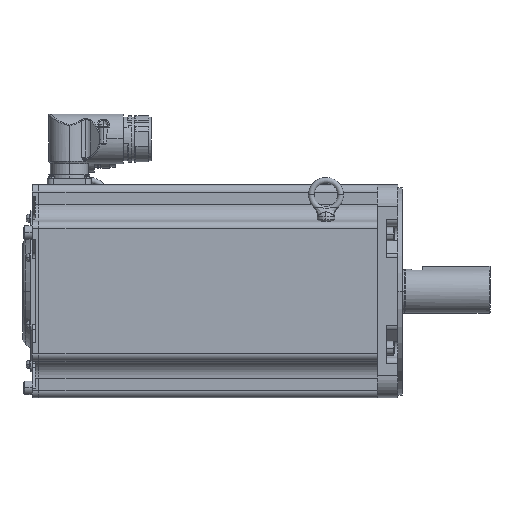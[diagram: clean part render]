
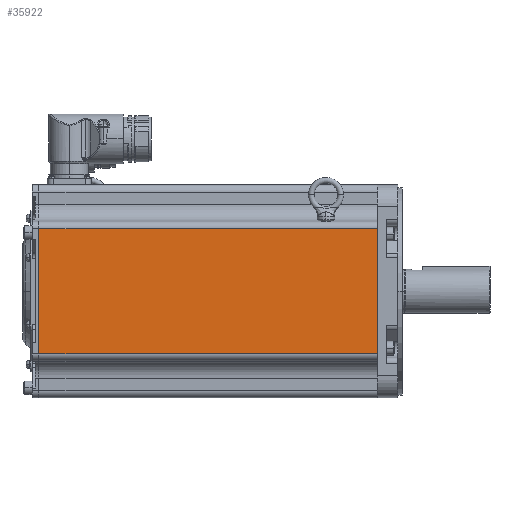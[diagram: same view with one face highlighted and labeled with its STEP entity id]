
A CAD part, top view. The second image highlights one B-rep face of the part: STEP entity #35922.
In plain terms, the highlighted planar face has unit normal (0, 0, 1) as drawn and (0, 0, -1) by its records, which use the part's own axes.
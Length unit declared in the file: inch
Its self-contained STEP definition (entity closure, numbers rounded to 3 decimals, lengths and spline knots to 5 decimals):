
#3064 = CARTESIAN_POINT ( 'NONE',  ( -12.268, 2.39, -3.64 ) ) ;
#3935 = VERTEX_POINT ( 'NONE', #34097 ) ;
#3962 = ORIENTED_EDGE ( 'NONE', *, *, #35566, .T. ) ;
#4701 = LINE ( 'NONE', #6565, #34282 ) ;
#6565 = CARTESIAN_POINT ( 'NONE',  ( -12.268, 2.14, -3.64 ) ) ;
#8013 = CARTESIAN_POINT ( 'NONE',  ( -0.7, 2.14, -3.64 ) ) ;
#8850 = DIRECTION ( 'NONE',  ( 1., 0., 0. ) ) ;
#9673 = VERTEX_POINT ( 'NONE', #8013 ) ;
#9788 = CARTESIAN_POINT ( 'NONE',  ( -0.7, -2.14, -3.64 ) ) ;
#11070 = LINE ( 'NONE', #32431, #25378 ) ;
#11742 = DIRECTION ( 'NONE',  ( 0., -1., 0. ) ) ;
#12114 = EDGE_CURVE ( 'NONE', #3935, #36696, #29450, .T. ) ;
#14491 = PLANE ( 'NONE',  #34112 ) ;
#14623 = CARTESIAN_POINT ( 'NONE',  ( -12.268, 2.39, -3.64 ) ) ;
#15939 = VECTOR ( 'NONE', #35167, 39.37008 ) ;
#16815 = LINE ( 'NONE', #32283, #15939 ) ;
#24449 = CARTESIAN_POINT ( 'NONE',  ( -12.268, -2.14, -3.64 ) ) ;
#24545 = EDGE_LOOP ( 'NONE', ( #31237, #3962, #25460, #26979 ) ) ;
#25378 = VECTOR ( 'NONE', #35314, 39.37008 ) ;
#25460 = ORIENTED_EDGE ( 'NONE', *, *, #12114, .F. ) ;
#25999 = DIRECTION ( 'NONE',  ( 0., 0., 1. ) ) ;
#26142 = VERTEX_POINT ( 'NONE', #9788 ) ;
#26612 = DIRECTION ( 'NONE',  ( 1., 0., 0. ) ) ;
#26731 = EDGE_CURVE ( 'NONE', #3935, #9673, #4701, .T. ) ;
#26979 = ORIENTED_EDGE ( 'NONE', *, *, #26731, .T. ) ;
#29450 = LINE ( 'NONE', #14623, #31212 ) ;
#31212 = VECTOR ( 'NONE', #11742, 39.37008 ) ;
#31237 = ORIENTED_EDGE ( 'NONE', *, *, #33725, .T. ) ;
#31643 = FACE_OUTER_BOUND ( 'NONE', #24545, .T. ) ;
#32283 = CARTESIAN_POINT ( 'NONE',  ( -0.7, 2.39, -3.64 ) ) ;
#32431 = CARTESIAN_POINT ( 'NONE',  ( -12.268, -2.14, -3.64 ) ) ;
#33725 = EDGE_CURVE ( 'NONE', #9673, #26142, #16815, .T. ) ;
#34097 = CARTESIAN_POINT ( 'NONE',  ( -12.268, 2.14, -3.64 ) ) ;
#34112 = AXIS2_PLACEMENT_3D ( 'NONE', #3064, #25999, #8850 ) ;
#34282 = VECTOR ( 'NONE', #26612, 39.37008 ) ;
#35167 = DIRECTION ( 'NONE',  ( 0., -1., 0. ) ) ;
#35314 = DIRECTION ( 'NONE',  ( -1., 0., 0. ) ) ;
#35566 = EDGE_CURVE ( 'NONE', #26142, #36696, #11070, .T. ) ;
#35922 = ADVANCED_FACE ( 'NONE', ( #31643 ), #14491, .F. ) ;
#36696 = VERTEX_POINT ( 'NONE', #24449 ) ;
